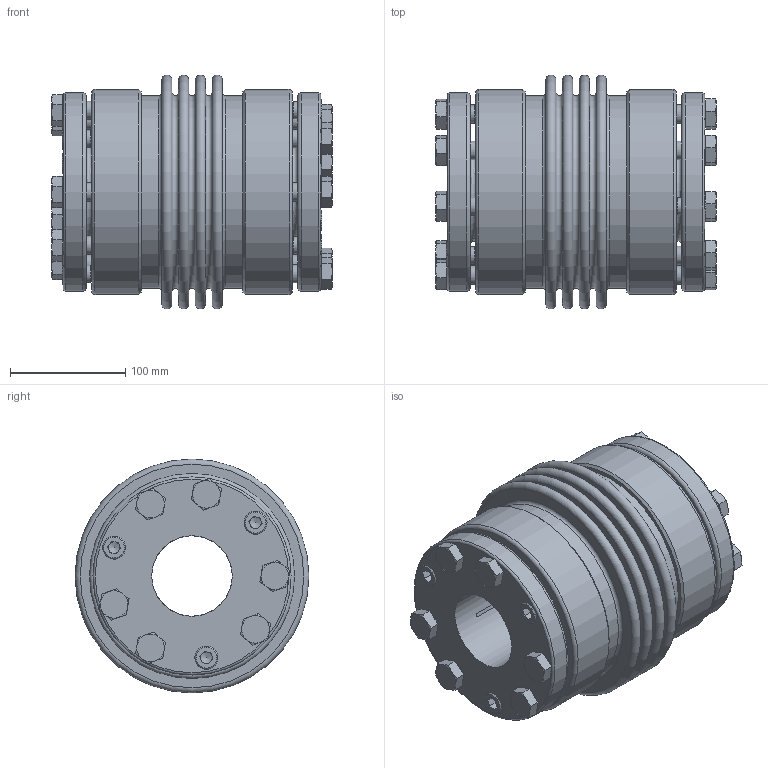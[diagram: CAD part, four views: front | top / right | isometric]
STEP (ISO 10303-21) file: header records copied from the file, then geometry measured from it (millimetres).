
FILE_DESCRIPTION(/* description */ ('Unknown','CAx-IF Rec.Pracs.---Representation and Presentation of Product Manufacturing Information (PMI)---4.0---2014-10-13','CAx-IF Rec.Pracs.---3D Tessellated Geometry---0.4---2014-09-14','2;1'),/* implementation_level */ '2;1');
FILE_NAME(/* name */ 'MB-03122486',/* time_stamp */ '2023-12-13T08:21:29+01:00',/* author */ ('Unknown'),/* organization */ ('Unknown'),/* preprocessor_version */ 'ST-DEVELOPER v18.102',/* originating_system */ 'Solid Edge',/* authorisation */ 'Unknown');
FILE_SCHEMA (('AP242_MANAGED_MODEL_BASED_3D_ENGINEERING_MIM_LF { 1 0 10303 442 1 1 4 }'));
Length unit declared in the file: millimetre
Products named in the file (1): MB-03122486
Bounding box: 243.4 x 203 x 203 mm (x, y, z)
Volume: 2925839.9 mm3; surface area: 561637.5 mm2
Topology: 1 solids, 13 shells, 582 faces, 1277 edges, 823 vertices
Faces by surface type: plane 270, cylinder 178, cone 106, torus 28
Full cylindrical faces by diameter (mm): 6.8 x50, 13.835 x12, 15 x6, 16 x12, 17 x12, 18.5 x6, 22.5 x12, 69.85 x2, 152 x2, 167.2 x2, 172 x2, 178 x2
Entity records: 20287 total; most frequent: CARTESIAN_POINT 4798, DIRECTION 2240, ORIENTED_EDGE 2024, EDGE_CURVE 1012, AXIS2_PLACEMENT_3D 936, FACE_BOUND 926, EDGE_LOOP 908, VERTEX_POINT 758
